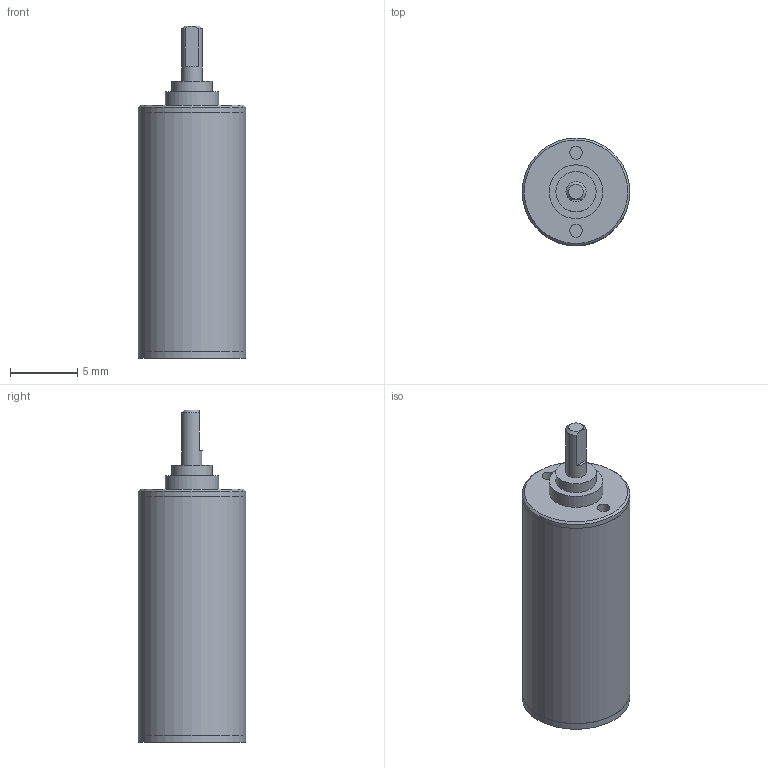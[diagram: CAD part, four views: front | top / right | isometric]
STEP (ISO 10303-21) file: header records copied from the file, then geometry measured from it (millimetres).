
FILE_DESCRIPTION(/* description */ (''),/* implementation_level */ '2;1');
FILE_NAME(/* name */ '08-2K_6.stp',/* time_stamp */ '2016-08-23T14:20:46+02:00',/* author */ ('DR. FRITZ FAULHABER GmbH & Co. KG'),/* organization */ ('DR. FRITZ FAULHABER GmbH & Co. KG'),/* preprocessor_version */ 'ST-DEVELOPER v16',/* originating_system */ 'SIEMENS PLM Software NX 10.0',/* authorisation */ '');
FILE_SCHEMA (('AUTOMOTIVE_DESIGN { 1 0 10303 214 3 1 1 1 }'));
Length unit declared in the file: millimetre
Products named in the file (1): H00000400_A
Bounding box: 8 x 8 x 24.7 mm (x, y, z)
Volume: 898.8 mm3; surface area: 679.4 mm2
Topology: 1 solids, 1 shells, 33 faces, 56 edges, 37 vertices
Faces by surface type: plane 16, cylinder 14, cone 3
Full cylindrical faces by diameter (mm): 0.95 x2, 1.5 x1, 2.13 x1, 2.53 x1, 3 x1, 4 x1, 4.959 x1, 6 x1, 7.99 x2, 8 x3
Entity records: 709 total; most frequent: DIRECTION 133, CARTESIAN_POINT 115, ORIENTED_EDGE 72, AXIS2_PLACEMENT_3D 65, EDGE_LOOP 61, FACE_BOUND 54, EDGE_CURVE 36, ADVANCED_FACE 33
